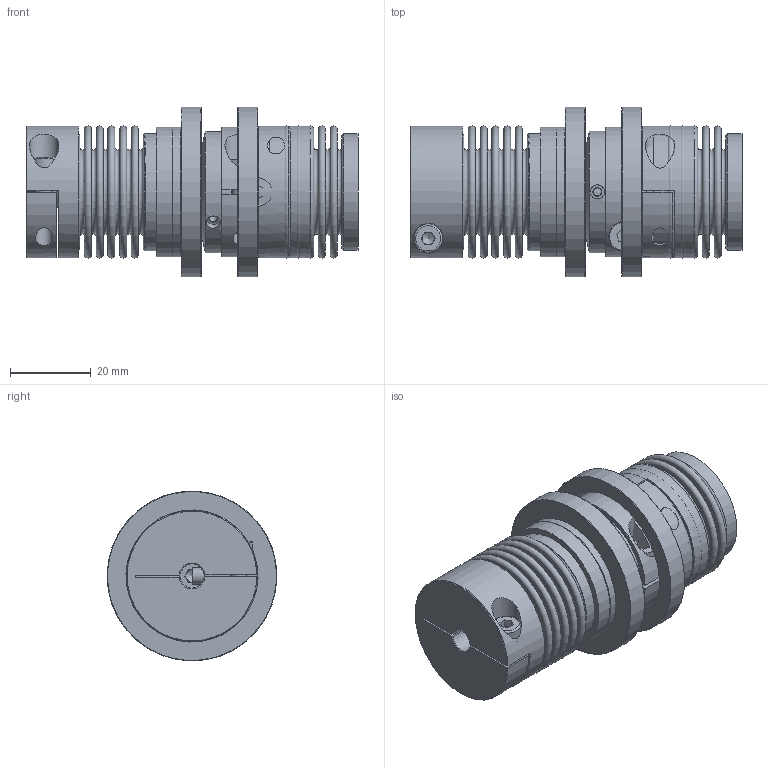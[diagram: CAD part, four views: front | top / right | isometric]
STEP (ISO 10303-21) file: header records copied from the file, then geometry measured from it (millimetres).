
FILE_DESCRIPTION( ( 'Unknown' ), '1' );
FILE_NAME( 'C:/Dokumente und Einstellungen/SKarpstein/Desktop/Korrigierte 3D Modelle/KBK-BKK-4,5-57.stp', 'Unknown', ( 'Unknown' ), ( 'Unknown' ), 'XStep 1.0', 'Unknown', ' ' );
FILE_SCHEMA( ( 'automotive_design' ) );
Length unit declared in the file: millimetre
Products named in the file (11): Assem1; Assem2; Zylinderschraube DIN 912_3; Grundkörper L-K-4,5; Klemmnabe 4,5; Stellring 4,5; Druckring 4,5; Flansch BK4-5; KN45_Standard_2; Socket Head Cap Screw_DIN_DIN 912 M4 x 12 --- 12N_2; BK45_Standard_0
Bounding box: 82.12 x 42 x 42 mm (x, y, z)
Volume: 63815.7 mm3; surface area: 65671.4 mm2
Topology: 19 solids, 19 shells, 393 faces, 800 edges, 521 vertices
Faces by surface type: plane 184, cylinder 90, cone 61, torus 58
Full cylindrical faces by diameter (mm): 2.013 x6, 3.242 x2, 3.5 x6, 4 x7, 4.2 x4, 6 x4, 7 x5, 7.3 x4, 14 x2, 15 x4, 16 x2, 18 x4, 20 x2, 22 x2, 26 x2, 28.2 x4, 28.8 x4, 29 x2, 30 x2, 32 x4, 32.5 x2, 34 x2, 42 x2
Entity records: 5168 total; most frequent: CARTESIAN_POINT 1258, DIRECTION 817, ORIENTED_EDGE 550, AXIS2_PLACEMENT_3D 370, EDGE_LOOP 342, EDGE_CURVE 275, FACE_OUTER_BOUND 257, VERTEX_POINT 230
